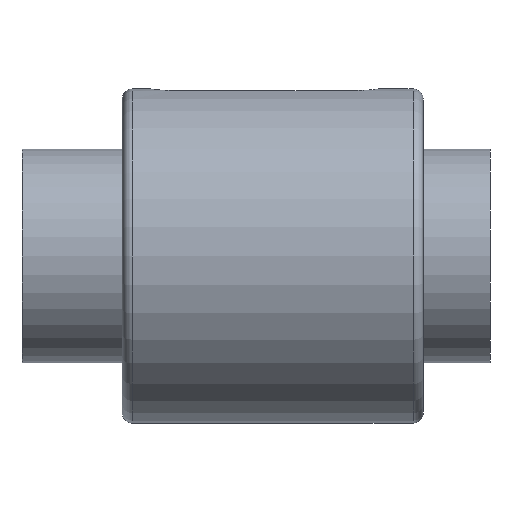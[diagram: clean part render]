
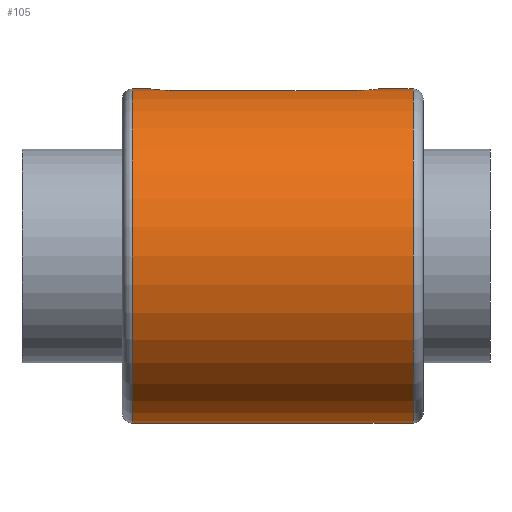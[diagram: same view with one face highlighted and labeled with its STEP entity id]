
A CAD part, left-side view. The second image highlights one B-rep face of the part: STEP entity #105.
In plain terms, the highlighted cylindrical face has radius 25 mm (diameter 50 mm), a full revolution.
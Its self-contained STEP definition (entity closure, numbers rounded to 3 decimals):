
#31=B_SPLINE_CURVE_WITH_KNOTS('',3,(#512,#513,#514,#515,#516,#517,#518,#519,
#520,#521,#522,#523,#524,#525,#526,#527,#528,#529,#530,#531),.UNSPECIFIED.,
 .F.,.F.,(4,2,2,1,2,2,2,1,2,2,4),(0.,0.25,0.375,0.437,
0.469,0.5,0.531,0.562,
0.625,0.75,1.),.UNSPECIFIED.);
#32=B_SPLINE_CURVE_WITH_KNOTS('',3,(#535,#536,#537,#538,#539,#540,#541,#542,
#543,#544,#545,#546,#547,#548,#549,#550,#551,#552,#553,#554),.UNSPECIFIED.,
 .F.,.F.,(4,2,2,1,2,2,2,1,2,2,4),(0.,0.25,0.375,0.438,0.469,0.5,0.531,
0.563,0.625,0.75,1.),.UNSPECIFIED.);
#39=LINE('',#509,#49);
#40=LINE('',#533,#50);
#49=VECTOR('',#417,1.);
#50=VECTOR('',#418,1.);
#105=ADVANCED_FACE('',(#137,#138,#139),#129,.T.);
#129=CYLINDRICAL_SURFACE('',#370,25.);
#137=FACE_BOUND('',#170,.T.);
#138=FACE_BOUND('',#171,.T.);
#139=FACE_BOUND('',#172,.T.);
#170=EDGE_LOOP('',(#212,#213,#214,#215));
#171=EDGE_LOOP('',(#216));
#172=EDGE_LOOP('',(#217));
#212=ORIENTED_EDGE('',*,*,#310,.T.);
#213=ORIENTED_EDGE('',*,*,#311,.T.);
#214=ORIENTED_EDGE('',*,*,#312,.T.);
#215=ORIENTED_EDGE('',*,*,#313,.T.);
#216=ORIENTED_EDGE('',*,*,#314,.T.);
#217=ORIENTED_EDGE('',*,*,#315,.T.);
#282=VERTEX_POINT('',#510);
#283=VERTEX_POINT('',#511);
#284=VERTEX_POINT('',#532);
#285=VERTEX_POINT('',#534);
#286=VERTEX_POINT('',#556);
#287=VERTEX_POINT('',#558);
#310=EDGE_CURVE('',#282,#283,#39,.T.);
#311=EDGE_CURVE('',#283,#284,#31,.T.);
#312=EDGE_CURVE('',#284,#285,#40,.T.);
#313=EDGE_CURVE('',#285,#282,#32,.T.);
#314=EDGE_CURVE('',#286,#286,#346,.T.);
#315=EDGE_CURVE('',#287,#287,#347,.T.);
#346=CIRCLE('',#368,25.);
#347=CIRCLE('',#369,25.);
#368=AXIS2_PLACEMENT_3D('',#555,#419,#420);
#369=AXIS2_PLACEMENT_3D('',#557,#421,#422);
#370=AXIS2_PLACEMENT_3D('',#559,#423,#424);
#417=DIRECTION('',(0.,1.,0.));
#418=DIRECTION('',(0.,-1.,0.));
#419=DIRECTION('',(0.,-1.,0.));
#420=DIRECTION('',(0.,0.,-1.));
#421=DIRECTION('',(0.,1.,0.));
#422=DIRECTION('',(0.,0.,-1.));
#423=DIRECTION('',(0.,1.,0.));
#424=DIRECTION('',(0.,0.,1.));
#509=CARTESIAN_POINT('',(-3.505,0.,24.753));
#510=CARTESIAN_POINT('',(-3.505,10.,24.753));
#511=CARTESIAN_POINT('',(-3.505,37.5,24.753));
#512=CARTESIAN_POINT('',(-3.505,37.5,24.753));
#513=CARTESIAN_POINT('',(-3.509,38.4,24.753));
#514=CARTESIAN_POINT('',(-3.127,39.297,24.812));
#515=CARTESIAN_POINT('',(-2.155,40.253,24.909));
#516=CARTESIAN_POINT('',(-1.776,40.501,24.941));
#517=CARTESIAN_POINT('',(-1.126,40.766,24.976));
#518=CARTESIAN_POINT('',(-0.796,40.866,24.989));
#519=CARTESIAN_POINT('',(-0.458,40.915,24.996));
#520=CARTESIAN_POINT('',(-0.232,40.938,24.999));
#521=CARTESIAN_POINT('',(-0.078,40.943,25.));
#522=CARTESIAN_POINT('',(0.073,40.943,25.));
#523=CARTESIAN_POINT('',(0.226,40.938,24.999));
#524=CARTESIAN_POINT('',(0.453,40.916,24.996));
#525=CARTESIAN_POINT('',(0.791,40.866,24.989));
#526=CARTESIAN_POINT('',(1.121,40.767,24.976));
#527=CARTESIAN_POINT('',(1.773,40.503,24.941));
#528=CARTESIAN_POINT('',(2.152,40.255,24.909));
#529=CARTESIAN_POINT('',(3.127,39.298,24.812));
#530=CARTESIAN_POINT('',(3.508,38.407,24.753));
#531=CARTESIAN_POINT('',(3.505,37.5,24.753));
#532=CARTESIAN_POINT('',(3.505,37.5,24.753));
#533=CARTESIAN_POINT('',(3.505,0.,24.753));
#534=CARTESIAN_POINT('',(3.505,10.,24.753));
#535=CARTESIAN_POINT('',(3.505,10.,24.753));
#536=CARTESIAN_POINT('',(3.509,9.1,24.753));
#537=CARTESIAN_POINT('',(3.127,8.203,24.812));
#538=CARTESIAN_POINT('',(2.155,7.247,24.909));
#539=CARTESIAN_POINT('',(1.776,6.999,24.941));
#540=CARTESIAN_POINT('',(1.126,6.734,24.976));
#541=CARTESIAN_POINT('',(0.796,6.634,24.989));
#542=CARTESIAN_POINT('',(0.458,6.585,24.996));
#543=CARTESIAN_POINT('',(0.232,6.562,24.999));
#544=CARTESIAN_POINT('',(0.078,6.557,25.));
#545=CARTESIAN_POINT('',(-0.073,6.557,25.));
#546=CARTESIAN_POINT('',(-0.226,6.562,24.999));
#547=CARTESIAN_POINT('',(-0.453,6.584,24.996));
#548=CARTESIAN_POINT('',(-0.791,6.634,24.989));
#549=CARTESIAN_POINT('',(-1.121,6.733,24.976));
#550=CARTESIAN_POINT('',(-1.773,6.997,24.941));
#551=CARTESIAN_POINT('',(-2.152,7.245,24.909));
#552=CARTESIAN_POINT('',(-3.127,8.202,24.812));
#553=CARTESIAN_POINT('',(-3.508,9.093,24.753));
#554=CARTESIAN_POINT('',(-3.505,10.,24.753));
#555=CARTESIAN_POINT('',(0.,43.5,0.));
#556=CARTESIAN_POINT('',(0.,43.5,-25.));
#557=CARTESIAN_POINT('',(0.,1.5,0.));
#558=CARTESIAN_POINT('',(0.,1.5,-25.));
#559=CARTESIAN_POINT('',(0.,0.,0.));
